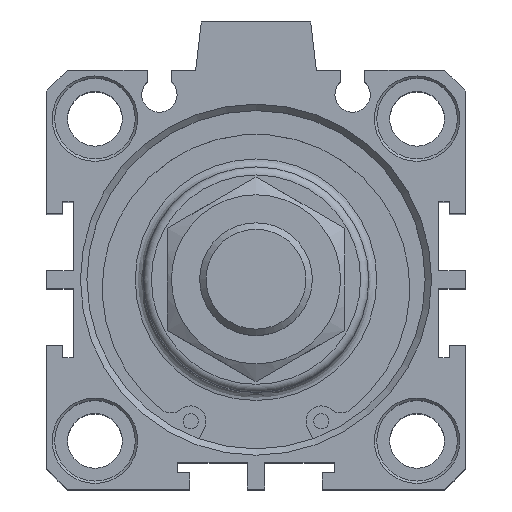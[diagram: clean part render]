
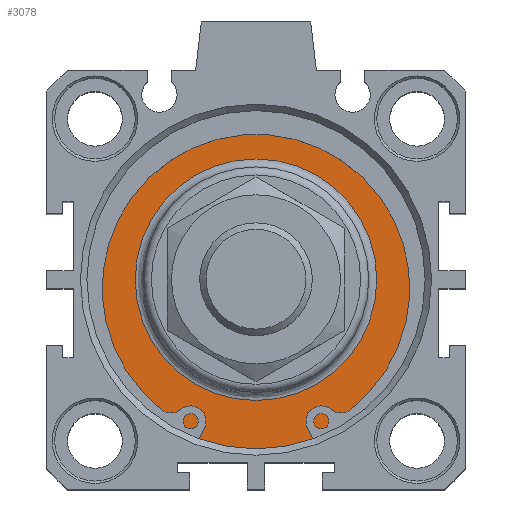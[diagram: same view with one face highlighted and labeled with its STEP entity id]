
A CAD part, top view. The second image highlights one B-rep face of the part: STEP entity #3078.
In plain terms, the highlighted planar face has unit normal (0, 0, 1).
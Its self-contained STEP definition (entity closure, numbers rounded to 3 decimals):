
#3027=CARTESIAN_POINT('',(-1.555,16.077,62.4));
#3028=VERTEX_POINT('',#3027);
#3029=CARTESIAN_POINT('',(-1.555,1.077,62.4));
#3030=DIRECTION('',(0.0,0.0,1.0));
#3031=DIRECTION('',(0.0,-1.0,0.0));
#3032=AXIS2_PLACEMENT_3D('',#3029,#3030,#3031);
#3033=CIRCLE('',#3032,15.);
#3034=EDGE_CURVE('',#3028,#3028,#3033,.T.);
#3059=CARTESIAN_POINT('',(-1.555,18.577,62.4));
#3060=DIRECTION('',(0.0,0.0,1.0));
#3061=DIRECTION('',(1.0,0.0,0.0));
#3062=AXIS2_PLACEMENT_3D('',#3059,#3060,#3061);
#3063=PLANE('',#3062);
#3064=CARTESIAN_POINT('',(-1.555,22.077,62.4));
#3065=VERTEX_POINT('',#3064);
#3066=CARTESIAN_POINT('',(-1.555,1.077,62.4));
#3067=DIRECTION('',(0.0,0.0,-1.0));
#3068=DIRECTION('',(0.0,1.0,0.0));
#3069=AXIS2_PLACEMENT_3D('',#3066,#3067,#3068);
#3070=CIRCLE('',#3069,21.);
#3071=EDGE_CURVE('',#3065,#3065,#3070,.T.);
#3072=ORIENTED_EDGE('',*,*,#3071,.F.);
#3073=EDGE_LOOP('',(#3072));
#3074=FACE_OUTER_BOUND('',#3073,.T.);
#3075=ORIENTED_EDGE('',*,*,#3034,.F.);
#3076=EDGE_LOOP('',(#3075));
#3077=FACE_BOUND('',#3076,.T.);
#3078=ADVANCED_FACE('',(#3074,#3077),#3063,.T.);
